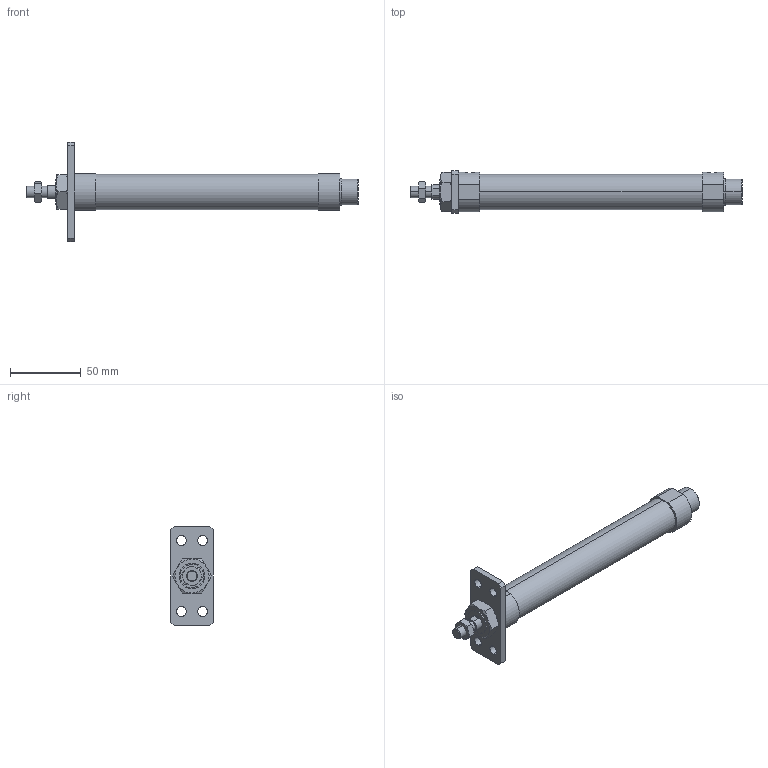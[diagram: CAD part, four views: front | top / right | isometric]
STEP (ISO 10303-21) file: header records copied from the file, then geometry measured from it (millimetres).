
FILE_DESCRIPTION (( 'STEP AP203' ), '1' );
FILE_NAME ('J#2-20-125-A.STEP', '2016-03-08T07:03:22', ( '' ), ( '' ), 'SwSTEP 2.0', 'SolidWorks 2014', '' );
FILE_SCHEMA (( 'CONFIG_CONTROL_DESIGN' ));
Length unit declared in the file: millimetre
Products named in the file (5): J#2-20-125-A; J#2-20-A; J#2-20-125
Assembly tree (4 placements, depth 2):
  J#2-20-125-A
    J#2-20-125
    (unnamed)
    (unnamed)
    J#2-20-A
Bounding box: 234 x 30 x 70 mm (x, y, z)
Volume: 111760.1 mm3; surface area: 26103.5 mm2
Topology: 4 solids, 4 shells, 112 faces, 252 edges, 158 vertices
Faces by surface type: plane 46, cylinder 36, torus 24, cone 6
Entity records: 4013 total; most frequent: CARTESIAN_POINT 985, DIRECTION 536, ORIENTED_EDGE 504, EDGE_CURVE 252, AXIS2_PLACEMENT_3D 221, VERTEX_POINT 158, EDGE_LOOP 136, ADVANCED_FACE 112
